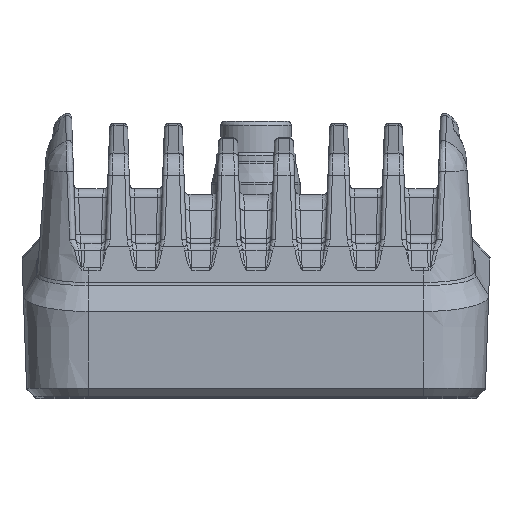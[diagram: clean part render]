
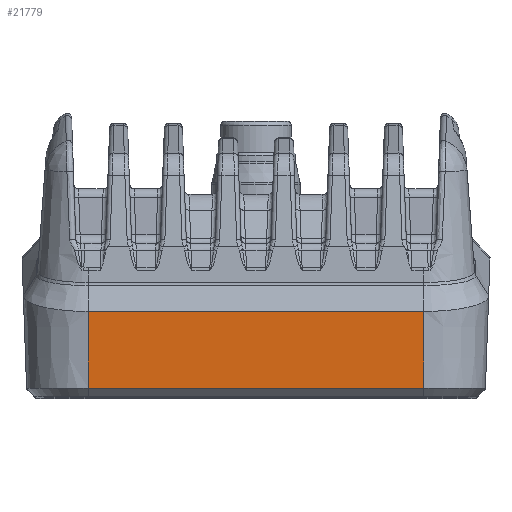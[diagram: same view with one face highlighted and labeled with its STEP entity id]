
A CAD part, top view. The second image highlights one B-rep face of the part: STEP entity #21779.
In plain terms, the highlighted planar face has unit normal (0, -0.035, 0.999).
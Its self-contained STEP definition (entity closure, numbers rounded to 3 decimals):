
#3319=DIRECTION('',(0.,-0.999,-0.035));
#3320=VECTOR('',#3319,8.721);
#3321=CARTESIAN_POINT('',(-19.,-4.092,28.198));
#3322=LINE('',#3321,#3320);
#3339=DIRECTION('',(1.,0.,0.));
#3340=VECTOR('',#3339,38.);
#3341=CARTESIAN_POINT('',(-19.,-4.092,28.198));
#3342=LINE('',#3341,#3340);
#3347=DIRECTION('',(0.,0.999,0.035));
#3348=VECTOR('',#3347,8.721);
#3349=CARTESIAN_POINT('',(19.,-12.807,27.894));
#3350=LINE('',#3349,#3348);
#7718=DIRECTION('',(1.,0.,0.));
#7719=VECTOR('',#7718,38.);
#7720=CARTESIAN_POINT('',(-19.,-12.807,
27.894));
#7721=LINE('',#7720,#7719);
#12841=CARTESIAN_POINT('',(19.,-4.092,28.198));
#12842=VERTEX_POINT('',#12841);
#12843=CARTESIAN_POINT('',(-19.,-4.092,28.198));
#12844=VERTEX_POINT('',#12843);
#13264=CARTESIAN_POINT('',(-19.,-12.807,
27.894));
#13265=VERTEX_POINT('',#13264);
#13268=CARTESIAN_POINT('',(19.,-12.807,
27.894));
#13269=VERTEX_POINT('',#13268);
#21766=CARTESIAN_POINT('',(-21.155,-12.807,
27.894));
#21767=DIRECTION('',(0.,-0.035,0.999));
#21768=DIRECTION('',(1.,0.,0.));
#21769=AXIS2_PLACEMENT_3D('',#21766,#21767,#21768);
#21770=PLANE('',#21769);
#21772=ORIENTED_EDGE('',*,*,#21771,.F.);
#21774=ORIENTED_EDGE('',*,*,#21773,.F.);
#21775=ORIENTED_EDGE('',*,*,#21756,.F.);
#21776=ORIENTED_EDGE('',*,*,#15221,.T.);
#21777=EDGE_LOOP('',(#21772,#21774,#21775,#21776));
#21778=FACE_OUTER_BOUND('',#21777,.F.);
#21779=ADVANCED_FACE('',(#21778),#21770,.T.);
#15221=EDGE_CURVE('',#12844,#12842,#3342,.T.);
#21756=EDGE_CURVE('',#12844,#13265,#3322,.T.);
#21771=EDGE_CURVE('',#13269,#12842,#3350,.T.);
#21773=EDGE_CURVE('',#13265,#13269,#7721,.T.);
